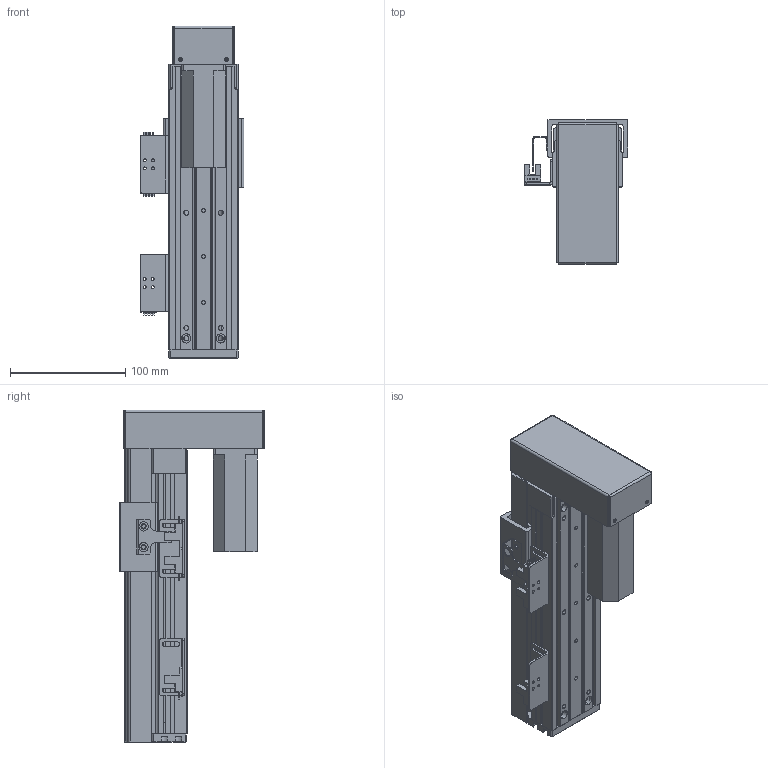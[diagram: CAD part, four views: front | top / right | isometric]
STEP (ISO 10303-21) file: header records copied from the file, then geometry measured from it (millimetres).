
FILE_DESCRIPTION (( 'STEP AP203' ), '1' );
FILE_NAME ('RY60FB-L1210-300-BK.SLDASM_100.step', '2021-02-23T00:55:15', ( '盈信电脑' ), ( '东莞市道滘镇水果街19号' ), 'SwSTEP 2.0', 'SolidWorks 2012', '' );
FILE_SCHEMA (( 'CONFIG_CONTROL_DESIGN' ));
Length unit declared in the file: millimetre
Products named in the file (15): RY60FB-L1210-300-BK.SLDASM_100; RY60FB-674嫖萇耀輸; RY60FB-狟殏萇儂假蚾啣; RY60FB-蛌殏萇儂欶; RY60FB转折电机端支撑座; RY80俋离覜茼え; 覜茼ん674; RY60FB-感应器674光电安装座; 侂狟100W; RY60FB-蛌殏奻裔-300-BK_100; 滅袉蝶18-10; RY60FB綴裔啣; RY60FB-蛌殏菁釱-300-BK_100; RY60FB-臏賑輸
Assembly tree (20 placements, depth 3):
  RY60FB-L1210-300-BK.SLDASM_100
    RY60FB-蛌殏菁釱-300-BK_100
    RY60FB-臏賑輸
    滅袉蝶18-10  x4
    RY60FB-蛌殏奻裔-300-BK_100
    侂狟100W
    RY60FB綴裔啣
    RY60FB转折电机端支撑座
    RY80俋离覜茼え
    RY60FB-674嫖萇耀輸
      RY60FB-感应器674光电安装座
      覜茼ん674  x2
    RY60FB-674嫖萇耀輸
      RY60FB-感应器674光电安装座
      覜茼ん674
    RY60FB-狟殏萇儂假蚾啣
    RY60FB-蛌殏萇儂欶
Bounding box: 90 x 125.45 x 288 mm (x, y, z)
Volume: 538916.4 mm3; surface area: 281383.4 mm2
Topology: 18 solids, 18 shells, 1063 faces, 2890 edges, 1836 vertices
Faces by surface type: plane 529, cylinder 429, cone 97, bspline 8
Entity records: 30315 total; most frequent: CARTESIAN_POINT 5937, DIRECTION 4762, ORIENTED_EDGE 4676, EDGE_CURVE 2338, AXIS2_PLACEMENT_3D 1649, VERTEX_POINT 1512, LINE 1464, VECTOR 1464
